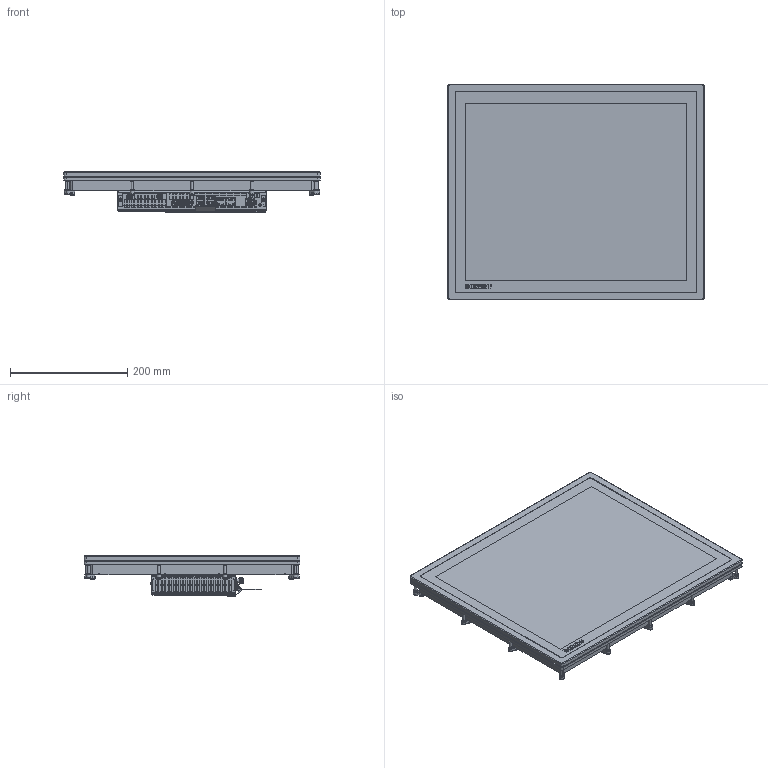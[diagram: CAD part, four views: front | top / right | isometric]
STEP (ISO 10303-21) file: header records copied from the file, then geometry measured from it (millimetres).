
FILE_DESCRIPTION(/* description */ (''),/* implementation_level */ '2;1');
FILE_NAME(/* name */ 'C:\_Vault-Workspace\CAD-Daten\Projekte\Entwicklungsprojekte\CP2\CPX2\CPX2719-0010\CPX2719-0010.stp',/* time_stamp */ '2018-03-08T15:23:18+01:00',/* author */ ('DennisJ'),/* organization */ (''),/* preprocessor_version */ 'ST-DEVELOPER v16.13',/* originating_system */ 'Autodesk Inventor 2018',/* authorisation */ '');
FILE_SCHEMA (('CONFIG_CONTROL_DESIGN'));
Products named in the file (1): CPX2719-0010
Bounding box: 438.3 x 369 x 68.5 mm (x, y, z)
Volume: 6119910.5 mm3; surface area: 561315.5 mm2
Topology: 8 solids, 31 shells, 3333 faces, 8943 edges, 5796 vertices
Faces by surface type: plane 2360, cylinder 724, cone 180, bspline 41, torus 25, sphere 3
Full cylindrical faces by diameter (mm): 0.353 x8, 1.567 x2, 1.95 x3, 2.3 x5, 2.459 x18, 3 x6, 3.04 x6, 3.1 x8, 3.242 x1, 3.5 x6, 3.706 x2, 3.746 x2, 4 x2, 4.25 x3, 4.4 x14, 4.917 x14, 5 x14, 5.295 x2, 5.6 x2, 6 x28, 6.324 x2, 6.364 x2, 6.5 x6, 7 x14, 7.413 x2, 7.603 x2, 9.003 x2, 10.59 x2
Entity records: 110278 total; most frequent: CARTESIAN_POINT 24500, ORIENTED_EDGE 17000, DIRECTION 15880, EDGE_CURVE 8491, LINE 6524, VECTOR 6524, VERTEX_POINT 5686, AXIS2_PLACEMENT_3D 4678
